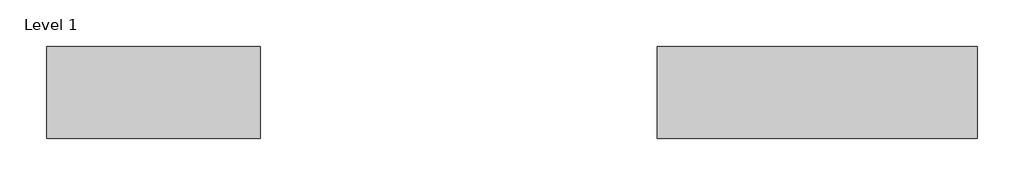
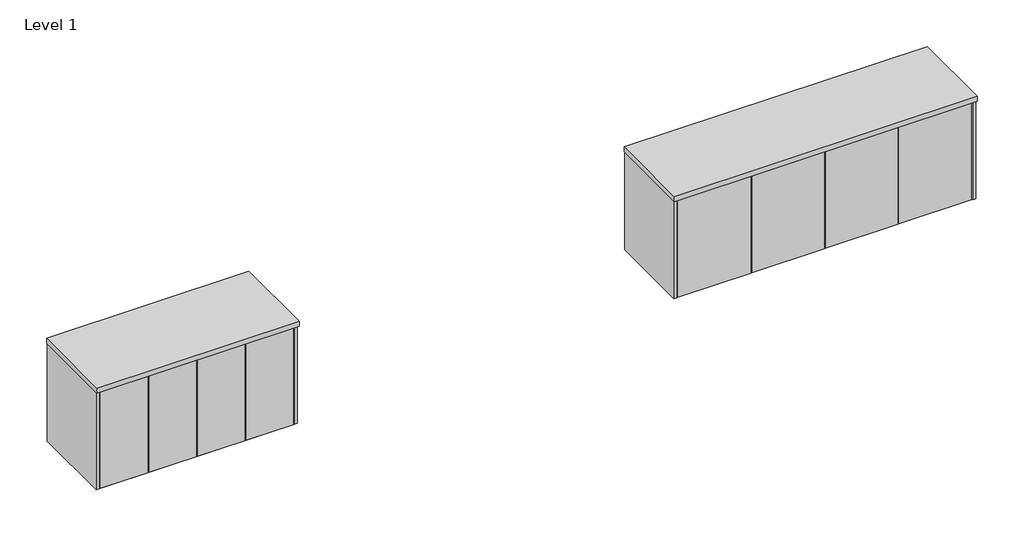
# One storey: 2 furniture elements.
"""IFC4 building model written with IfcOpenShell, lengths in millimetres."""

from ifc_helpers import new_model, si_unit, origin, place, context, project, spatial, transform, mapped, element, save
from components import furniture_48l_f599eb9c, furniture_72l_7181e602

model = new_model("IFC4")

# Units and contexts
model_context = context("Model", 3, world=origin())
ifc_project = project(units=[si_unit("LENGTHUNIT", "METRE", prefix="MILLI")], contexts=[model_context])

# Site, building, storey
site = spatial("IfcSite", under=ifc_project)
building = spatial("IfcBuilding", under=site)
storey = spatial("IfcBuildingStorey", under=building, Name="Level 1", Elevation=0.0)

# Furniture
placement = place(None, origin())
furniture_48l_shape = furniture_48l_f599eb9c(model_context)
element("IfcFurniture", 1, ObjectType="Steelcase Coalesse - Exponents Version 1 - Storage - Credenza : 48L", at=placement, inside=storey, context=model_context, shape_type="MappedRepresentation", body=[
    mapped(furniture_48l_shape, transform((773249.7766429, 4118.3141353, 0.0), x_axis=(1.0, 0.0, 0.0), y_axis=(0.0, 1.0, 0.0), z_axis=(0.0, 0.0, 1.0))),
])
furniture_72l_shape = furniture_72l_7181e602(model_context)
element("IfcFurniture", 2, ObjectType="Steelcase Coalesse - Exponents Version 1 - Storage - Credenza : 72L", at=placement, inside=storey, context=model_context, shape_type="MappedRepresentation", body=[
    mapped(furniture_72l_shape, transform((776748.7536914, 4118.3141353, 0.0), x_axis=(1.0, 0.0, 0.0), y_axis=(0.0, 1.0, 0.0), z_axis=(0.0, 0.0, 1.0))),
])

save(model, "model.ifc")
